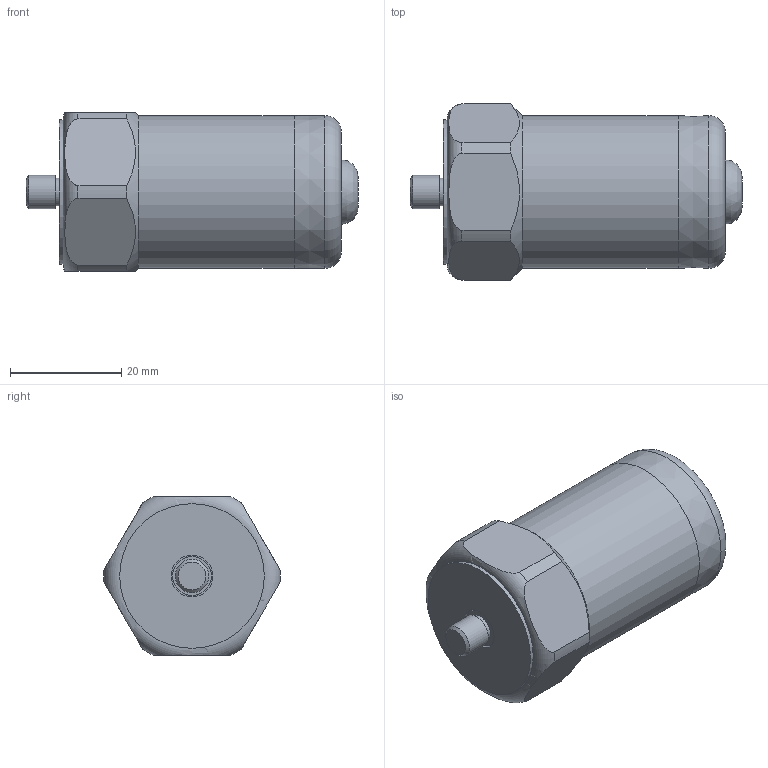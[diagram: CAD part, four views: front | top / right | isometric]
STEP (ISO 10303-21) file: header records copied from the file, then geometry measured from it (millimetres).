
FILE_DESCRIPTION(/* description */ (''),/* implementation_level */ '2;1');
FILE_NAME(/* name */ 'Z:\Engineering\Drawings\3D Library\Assemblies\Website\420 Velocity\HS-420XXX0206.stp',/* time_stamp */ '2023-05-03T13:35:38+01:00',/* author */ ('Ricardo.Peneda'),/* organization */ (''),/* preprocessor_version */ 'ST-DEVELOPER v18.1',/* originating_system */ 'Autodesk Inventor 2021',/* authorisation */ '');
FILE_SCHEMA (('AUTOMOTIVE_DESIGN { 1 0 10303 214 3 1 1 }'));
Length unit declared in the file: inch
Products named in the file (1): HS-420XXX0206_Shrinkwrap_1
Bounding box: 59.67 x 31.69 x 28.5 mm (x, y, z)
Volume: 14740.7 mm3; surface area: 10382.3 mm2
Topology: 3 solids, 3 shells, 53 faces, 144 edges, 102 vertices
Faces by surface type: plane 17, cone 17, cylinder 16, torus 2, bspline 1
Full cylindrical faces by diameter (mm): 5 x2, 6 x1, 6.3 x1, 6.35 x1, 7 x1, 7.5 x1, 25.3 x1, 26 x1, 27.5 x1
Entity records: 1984 total; most frequent: CARTESIAN_POINT 472, DIRECTION 327, ORIENTED_EDGE 288, EDGE_CURVE 144, AXIS2_PLACEMENT_3D 144, VERTEX_POINT 102, CIRCLE 91, EDGE_LOOP 60
